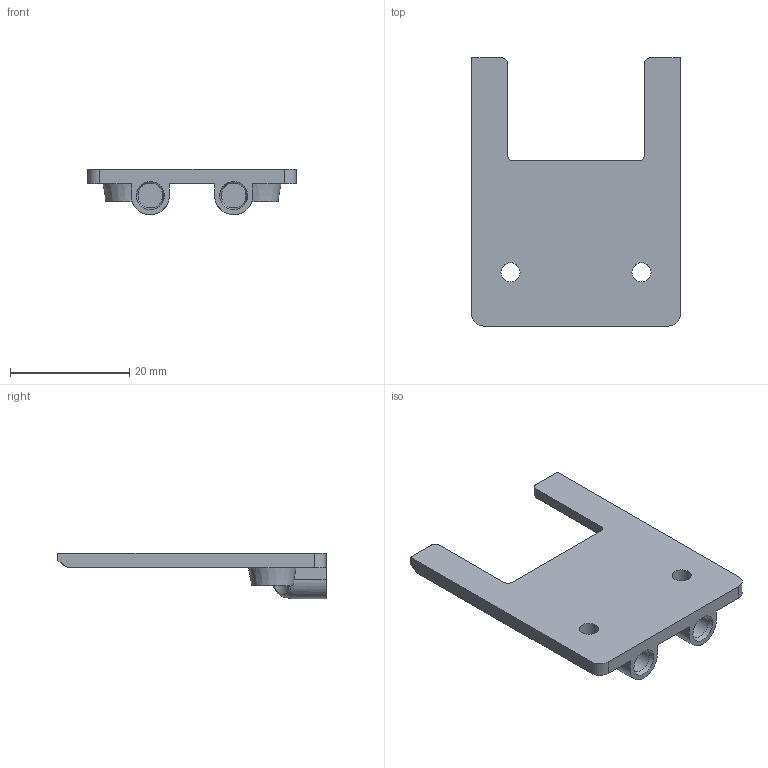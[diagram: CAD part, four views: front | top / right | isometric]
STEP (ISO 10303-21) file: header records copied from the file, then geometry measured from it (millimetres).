
FILE_DESCRIPTION(/* description */ (''),/* implementation_level */ '2;1');
FILE_NAME(/* name */ 'HMG7-Slice-Copperhead-Skirt.step',/* time_stamp */ '2022-11-01T21:32:22-07:00',/* author */ (''),/* organization */ (''),/* preprocessor_version */ 'ST-DEVELOPER v19.2',/* originating_system */ 'Autodesk Translation Framework v11.17.0.187',/* authorisation */ '');
FILE_SCHEMA (('AUTOMOTIVE_DESIGN { 1 0 10303 214 3 1 1 }'));
Length unit declared in the file: millimetre
Products named in the file (4): GEN_7_1.5; Copperhead; Copperhead_Interface_Plate; Copperhead_Skirt
Assembly tree (3 placements, depth 3):
  GEN_7_1.5
    Copperhead
      Copperhead_Interface_Plate
      Copperhead_Skirt
Bounding box: 35 x 45.03 x 7.6 mm (x, y, z)
Volume: 3167.9 mm3; surface area: 3330.1 mm2
Topology: 1 solids, 1 shells, 53 faces, 139 edges, 90 vertices
Faces by surface type: plane 27, cylinder 18, cone 6, bspline 2
Full cylindrical faces by diameter (mm): 3.2 x2, 4.15 x2, 6 x2
Entity records: 1833 total; most frequent: CARTESIAN_POINT 401, DIRECTION 289, ORIENTED_EDGE 278, EDGE_CURVE 139, AXIS2_PLACEMENT_3D 106, VERTEX_POINT 90, LINE 77, VECTOR 77
